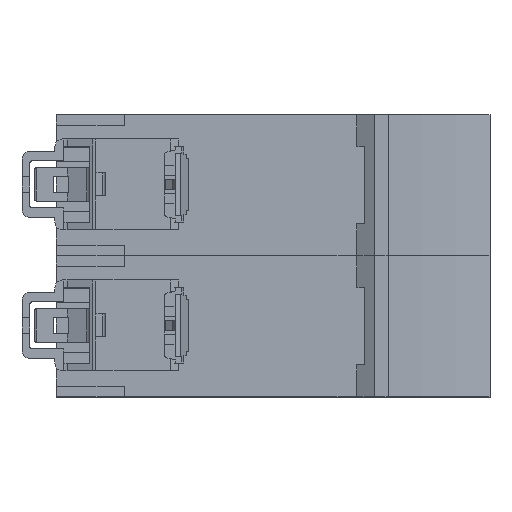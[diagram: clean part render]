
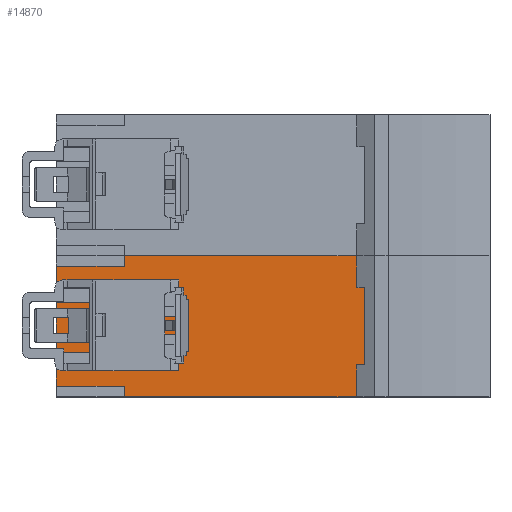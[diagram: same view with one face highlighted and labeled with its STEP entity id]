
A CAD part, top view. The second image highlights one B-rep face of the part: STEP entity #14870.
In plain terms, the highlighted planar face has unit normal (0, 0, 1).
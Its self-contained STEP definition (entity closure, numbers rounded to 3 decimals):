
#4255=DIRECTION('',(0.,1.,0.));
#4256=VECTOR('',#4255,4.2);
#4257=CARTESIAN_POINT('',(-91.301,7.3,-5.5));
#4258=LINE('',#4257,#4256);
#4271=DIRECTION('',(0.,1.,0.));
#4272=VECTOR('',#4271,9.5);
#4273=CARTESIAN_POINT('',(-91.301,-5.,-5.5));
#4274=LINE('',#4273,#4272);
#4287=DIRECTION('',(0.,1.,0.));
#4288=VECTOR('',#4287,4.2);
#4289=CARTESIAN_POINT('',(-91.301,-11.5,-5.5));
#4290=LINE('',#4289,#4288);
#5382=DIRECTION('',(-1.,0.,0.));
#5383=VECTOR('',#5382,0.301);
#5384=CARTESIAN_POINT('',(-32.299,7.4,-5.5));
#5385=LINE('',#5384,#5383);
#5386=DIRECTION('',(0.,1.,0.));
#5387=VECTOR('',#5386,14.8);
#5388=CARTESIAN_POINT('',(-32.299,-7.4,-5.5));
#5389=LINE('',#5388,#5387);
#5390=DIRECTION('',(1.,0.,0.));
#5391=VECTOR('',#5390,0.301);
#5392=CARTESIAN_POINT('',(-32.6,-7.4,-5.5));
#5393=LINE('',#5392,#5391);
#5394=DIRECTION('',(-1.,0.,0.));
#5395=VECTOR('',#5394,45.7);
#5396=CARTESIAN_POINT('',(-32.6,-13.5,-5.5));
#5397=LINE('',#5396,#5395);
#5398=DIRECTION('',(0.,-1.,0.));
#5399=VECTOR('',#5398,2.);
#5400=CARTESIAN_POINT('',(-78.3,-11.5,-5.5));
#5401=LINE('',#5400,#5399);
#5402=DIRECTION('',(1.,0.,0.));
#5403=VECTOR('',#5402,13.001);
#5404=CARTESIAN_POINT('',(-91.301,-11.5,-5.5));
#5405=LINE('',#5404,#5403);
#5406=DIRECTION('',(-1.,0.,0.));
#5407=VECTOR('',#5406,20.001);
#5408=CARTESIAN_POINT('',(-71.3,-7.3,-5.5));
#5409=LINE('',#5408,#5407);
#5410=DIRECTION('',(0.,1.,0.));
#5411=VECTOR('',#5410,2.3);
#5412=CARTESIAN_POINT('',(-71.3,-7.3,-5.5));
#5413=LINE('',#5412,#5411);
#5414=DIRECTION('',(1.,0.,0.));
#5415=VECTOR('',#5414,20.001);
#5416=CARTESIAN_POINT('',(-91.301,-5.,-5.5));
#5417=LINE('',#5416,#5415);
#5418=DIRECTION('',(-1.,0.,0.));
#5419=VECTOR('',#5418,20.001);
#5420=CARTESIAN_POINT('',(-71.3,4.5,-5.5));
#5421=LINE('',#5420,#5419);
#5422=DIRECTION('',(0.,1.,0.));
#5423=VECTOR('',#5422,2.8);
#5424=CARTESIAN_POINT('',(-71.3,4.5,-5.5));
#5425=LINE('',#5424,#5423);
#5426=DIRECTION('',(1.,0.,0.));
#5427=VECTOR('',#5426,20.001);
#5428=CARTESIAN_POINT('',(-91.301,7.3,-5.5));
#5429=LINE('',#5428,#5427);
#5430=DIRECTION('',(-1.,0.,0.));
#5431=VECTOR('',#5430,13.001);
#5432=CARTESIAN_POINT('',(-78.3,11.5,-5.5));
#5433=LINE('',#5432,#5431);
#5434=DIRECTION('',(0.,-1.,0.));
#5435=VECTOR('',#5434,2.);
#5436=CARTESIAN_POINT('',(-78.3,13.5,-5.5));
#5437=LINE('',#5436,#5435);
#5438=DIRECTION('',(1.,0.,0.));
#5439=VECTOR('',#5438,45.7);
#5440=CARTESIAN_POINT('',(-78.3,13.5,-5.5));
#5441=LINE('',#5440,#5439);
#5442=DIRECTION('',(0.,1.,0.));
#5443=VECTOR('',#5442,6.1);
#5444=CARTESIAN_POINT('',(-32.6,-13.5,-5.5));
#5445=LINE('',#5444,#5443);
#5454=DIRECTION('',(0.,1.,0.));
#5455=VECTOR('',#5454,6.1);
#5456=CARTESIAN_POINT('',(-32.6,7.4,-5.5));
#5457=LINE('',#5456,#5455);
#6244=CARTESIAN_POINT('',(-32.6,-13.5,-5.5));
#6246=VERTEX_POINT('',#6244);
#6306=CARTESIAN_POINT('',(-32.6,13.5,-5.5));
#6308=VERTEX_POINT('',#6306);
#6434=CARTESIAN_POINT('',(-91.301,11.5,-5.5));
#6436=VERTEX_POINT('',#6434);
#6438=CARTESIAN_POINT('',(-91.301,-11.5,-5.5));
#6440=VERTEX_POINT('',#6438);
#6442=CARTESIAN_POINT('',(-91.301,-7.3,-5.5));
#6443=VERTEX_POINT('',#6442);
#6444=CARTESIAN_POINT('',(-91.301,-5.,-5.5));
#6445=CARTESIAN_POINT('',(-91.301,4.5,-5.5));
#6446=VERTEX_POINT('',#6444);
#6447=VERTEX_POINT('',#6445);
#6448=CARTESIAN_POINT('',(-91.301,7.3,-5.5));
#6449=VERTEX_POINT('',#6448);
#6450=CARTESIAN_POINT('',(-71.3,7.3,-5.5));
#6451=VERTEX_POINT('',#6450);
#6452=CARTESIAN_POINT('',(-71.3,-7.3,-5.5));
#6453=VERTEX_POINT('',#6452);
#6454=CARTESIAN_POINT('',(-71.3,4.5,-5.5));
#6455=VERTEX_POINT('',#6454);
#6456=CARTESIAN_POINT('',(-71.3,-5.,-5.5));
#6457=VERTEX_POINT('',#6456);
#6470=CARTESIAN_POINT('',(-78.3,11.5,-5.5));
#6471=VERTEX_POINT('',#6470);
#6472=CARTESIAN_POINT('',(-78.3,-11.5,-5.5));
#6473=VERTEX_POINT('',#6472);
#6474=CARTESIAN_POINT('',(-78.3,13.5,-5.5));
#6475=VERTEX_POINT('',#6474);
#6476=CARTESIAN_POINT('',(-78.3,-13.5,-5.5));
#6477=VERTEX_POINT('',#6476);
#7771=CARTESIAN_POINT('',(-32.299,-7.4,-5.5));
#7772=CARTESIAN_POINT('',(-32.299,7.4,-5.5));
#7773=VERTEX_POINT('',#7771);
#7774=VERTEX_POINT('',#7772);
#7858=CARTESIAN_POINT('',(-32.6,-7.4,-5.5));
#7859=VERTEX_POINT('',#7858);
#7860=CARTESIAN_POINT('',(-32.6,7.4,-5.5));
#7861=VERTEX_POINT('',#7860);
#14832=CARTESIAN_POINT('',(-71.3,-13.5,-5.5));
#14833=DIRECTION('',(0.,0.,1.));
#14834=DIRECTION('',(1.,0.,0.));
#14835=AXIS2_PLACEMENT_3D('',#14832,#14833,#14834);
#14836=PLANE('',#14835);
#14838=ORIENTED_EDGE('',*,*,#14837,.F.);
#14840=ORIENTED_EDGE('',*,*,#14839,.F.);
#14842=ORIENTED_EDGE('',*,*,#14841,.F.);
#14844=ORIENTED_EDGE('',*,*,#14843,.F.);
#14846=ORIENTED_EDGE('',*,*,#14845,.F.);
#14847=ORIENTED_EDGE('',*,*,#8055,.T.);
#14848=ORIENTED_EDGE('',*,*,#14799,.F.);
#14849=ORIENTED_EDGE('',*,*,#14827,.F.);
#14850=ORIENTED_EDGE('',*,*,#13078,.T.);
#14852=ORIENTED_EDGE('',*,*,#14851,.F.);
#14854=ORIENTED_EDGE('',*,*,#14853,.T.);
#14856=ORIENTED_EDGE('',*,*,#14855,.F.);
#14857=ORIENTED_EDGE('',*,*,#13070,.T.);
#14859=ORIENTED_EDGE('',*,*,#14858,.F.);
#14861=ORIENTED_EDGE('',*,*,#14860,.T.);
#14863=ORIENTED_EDGE('',*,*,#14862,.F.);
#14864=ORIENTED_EDGE('',*,*,#13062,.T.);
#14865=ORIENTED_EDGE('',*,*,#14785,.F.);
#14866=ORIENTED_EDGE('',*,*,#14812,.F.);
#14867=ORIENTED_EDGE('',*,*,#8506,.T.);
#14868=EDGE_LOOP('',(#14838,#14840,#14842,#14844,#14846,#14847,#14848,#14849,
#14850,#14852,#14854,#14856,#14857,#14859,#14861,#14863,#14864,#14865,#14866,
#14867));
#14869=FACE_OUTER_BOUND('',#14868,.F.);
#14870=ADVANCED_FACE('',(#14869),#14836,.T.);
#8055=EDGE_CURVE('',#6246,#6477,#5397,.T.);
#8506=EDGE_CURVE('',#6475,#6308,#5441,.T.);
#13062=EDGE_CURVE('',#6449,#6436,#4258,.T.);
#13070=EDGE_CURVE('',#6446,#6447,#4274,.T.);
#13078=EDGE_CURVE('',#6440,#6443,#4290,.T.);
#14785=EDGE_CURVE('',#6471,#6436,#5433,.T.);
#14799=EDGE_CURVE('',#6473,#6477,#5401,.T.);
#14812=EDGE_CURVE('',#6475,#6471,#5437,.T.);
#14827=EDGE_CURVE('',#6440,#6473,#5405,.T.);
#14837=EDGE_CURVE('',#7861,#6308,#5457,.T.);
#14839=EDGE_CURVE('',#7774,#7861,#5385,.T.);
#14841=EDGE_CURVE('',#7773,#7774,#5389,.T.);
#14843=EDGE_CURVE('',#7859,#7773,#5393,.T.);
#14845=EDGE_CURVE('',#6246,#7859,#5445,.T.);
#14851=EDGE_CURVE('',#6453,#6443,#5409,.T.);
#14853=EDGE_CURVE('',#6453,#6457,#5413,.T.);
#14855=EDGE_CURVE('',#6446,#6457,#5417,.T.);
#14858=EDGE_CURVE('',#6455,#6447,#5421,.T.);
#14860=EDGE_CURVE('',#6455,#6451,#5425,.T.);
#14862=EDGE_CURVE('',#6449,#6451,#5429,.T.);
